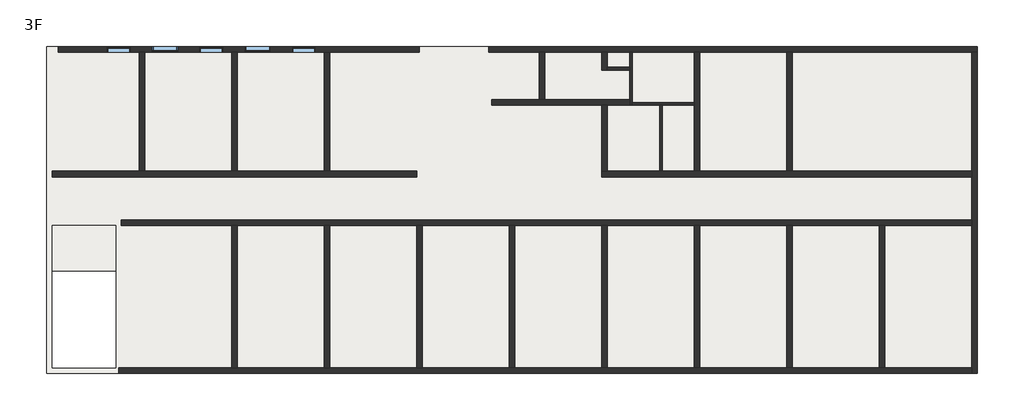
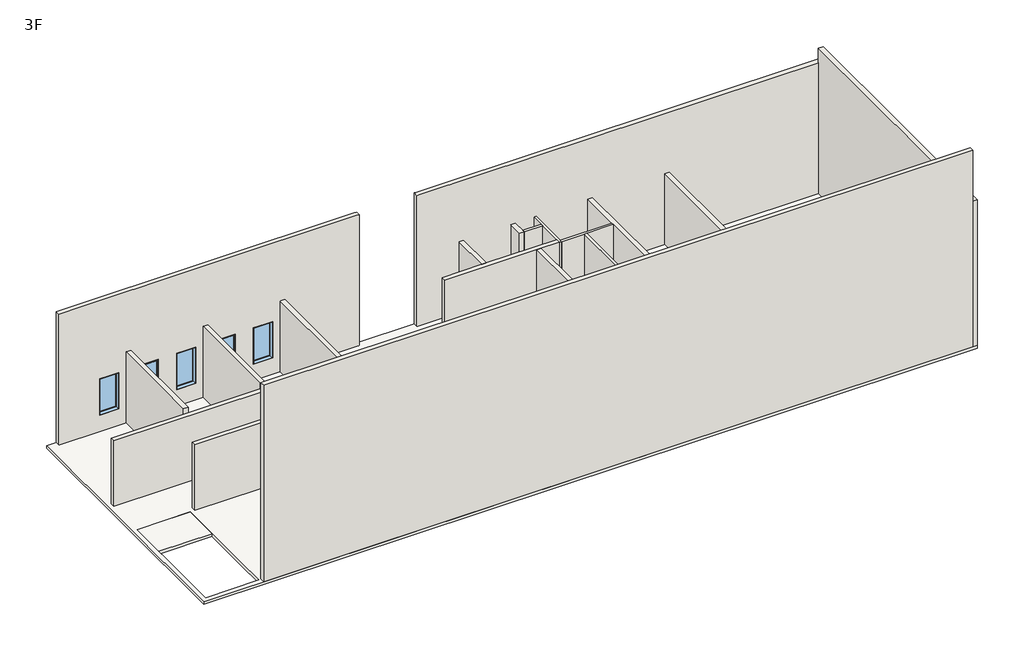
# One storey: 28 walls, 5 windows, 2 slabs.
"""IFC4 building model written with IfcOpenShell, lengths in millimetres."""

from ifc_helpers import new_model, si_unit, frame, origin, place, context, project, spatial, polyline, outline, extrude, faceted_brep, transform, mapped, element, save
from components import c1020_fcb93966, c1120_e84b940f

model = new_model("IFC4")

# Units and contexts
model_context = context("Model", 3, world=origin())
ifc_project = project(units=[si_unit("LENGTHUNIT", "METRE", prefix="MILLI")], contexts=[model_context])

# Site, building, storey
site = spatial("IfcSite", under=ifc_project)
building = spatial("IfcBuilding", under=site)
storey = spatial("IfcBuildingStorey", under=building, Name="3F", Elevation=8100.0)

# Slabs
placement = place(None, origin())
element("IfcSlab", 1, ObjectType="常规 - 150mm", at=placement, inside=storey, context=model_context, shape_type="Brep", body=[
    faceted_brep([(31359.5620884, 8888.8697102, 7950.0), (31359.5620884, -5251.1302898, 7950.0), (-8880.4379116, -5251.1302898, 7950.0), (-8880.4379116, 8888.8697102, 7950.0), (-5880.4379116, 1148.8697102, 7950.0), (-8640.4379116, 1148.8697102, 7950.0), (-8640.4379116, -3421.1302898, 7950.0), (-8640.4379116, -5011.1302898, 7950.0), (-5880.4379116, -5011.1302898, 7950.0), (-5880.4379116, -3421.1302898, 7950.0), (31359.5620884, -5251.1302898, 8100.0), (31359.5620884, 8888.8697102, 8100.0), (-8880.4379116, 8888.8697102, 8100.0), (-8880.4379116, -5251.1302898, 8100.0), (-8640.4379116, 1148.8697102, 8100.0), (-5880.4379116, 1148.8697102, 8100.0), (-5880.4379116, -3421.1302898, 8100.0), (-5880.4379116, -5011.1302898, 8100.0), (-8640.4379116, -5011.1302898, 8100.0), (-8640.4379116, -3421.1302898, 8100.0)], [[[0, 1, 2, 3], [4, 5, 6, 7, 8, 9]], [[10, 11, 12, 13], [14, 15, 16, 17, 18, 19]], [[1, 0, 11, 10]], [[2, 1, 10, 13]], [[3, 2, 13, 12]], [[0, 3, 12, 11]], [[4, 15, 14, 5]], [[5, 14, 19, 18, 7, 6]], [[7, 18, 17, 8]], [[15, 4, 9, 8, 17, 16]]]),
])
element("IfcSlab", 2, ObjectType="常规 - 150mm", at=placement, inside=storey, context=model_context, shape_type="SweptSolid", body=[
    extrude(outline(polyline([(-8640.4379116, -821.1302898), (-8640.4379116, 1148.8697102), (-5880.4379116, 1148.8697102), (-5880.4379116, -821.1302898), (-8640.4379116, -821.1302898)])), frame((0.0, 0.0, 7950.0), z_axis=(0.0, 0.0, 1.0), x_axis=(1.0, 0.0, 0.0)), (0.0, 0.0, 1.0), 150.0),
])

# Walls
element("IfcWall", 3, ObjectType="常规 - 240mm", at=placement, inside=storey, context=model_context, shape_type="Brep", body=[
    faceted_brep([(-8380.4379116, 8648.8697102, 8100.0), (-4880.4379116, 8648.8697102, 8100.0), (-4640.4379116, 8648.8697102, 8100.0), (-880.4379116, 8648.8697102, 8100.0), (-640.4379116, 8648.8697102, 8100.0), (3119.5620884, 8648.8697102, 8100.0), (3359.5620884, 8648.8697102, 8100.0), (7119.5620884, 8648.8697102, 8100.0), (7239.5620884, 8648.8697102, 8100.0), (7239.5620884, 8648.8697102, 15300.0), (7119.5620884, 8648.8697102, 15300.0), (-8380.4379116, 8648.8697102, 15300.0), (-5260.4379116, 8648.8697102, 9000.0), (-6260.4379116, 8648.8697102, 9000.0), (-6260.4379116, 8648.8697102, 11000.0), (-5260.4379116, 8648.8697102, 11000.0), (-1260.4379116, 8648.8697102, 9000.0), (-2260.4379116, 8648.8697102, 9000.0), (-2260.4379116, 8648.8697102, 11000.0), (-1260.4379116, 8648.8697102, 11000.0), (2739.5620884, 8648.8697102, 9000.0), (1739.5620884, 8648.8697102, 9000.0), (1739.5620884, 8648.8697102, 11000.0), (2739.5620884, 8648.8697102, 11000.0), (-4310.4379116, 8648.8697102, 9000.0), (-4310.4379116, 8648.8697102, 11000.0), (-3210.4379116, 8648.8697102, 11000.0), (-3210.4379116, 8648.8697102, 9000.0), (-310.4379116, 8648.8697102, 9000.0), (-310.4379116, 8648.8697102, 11000.0), (789.5620884, 8648.8697102, 11000.0), (789.5620884, 8648.8697102, 9000.0), (-8380.4379116, 8888.8697102, 8100.0), (-8380.4379116, 8888.8697102, 15300.0), (7119.5620884, 8888.8697102, 15300.0), (7239.5620884, 8888.8697102, 15300.0), (7239.5620884, 8888.8697102, 8100.0), (7119.5620884, 8888.8697102, 8100.0), (-5260.4379116, 8888.8697102, 9000.0), (-5260.4379116, 8888.8697102, 11000.0), (-6260.4379116, 8888.8697102, 11000.0), (-6260.4379116, 8888.8697102, 9000.0), (-1260.4379116, 8888.8697102, 9000.0), (-1260.4379116, 8888.8697102, 11000.0), (-2260.4379116, 8888.8697102, 11000.0), (-2260.4379116, 8888.8697102, 9000.0), (2739.5620884, 8888.8697102, 9000.0), (2739.5620884, 8888.8697102, 11000.0), (1739.5620884, 8888.8697102, 11000.0), (1739.5620884, 8888.8697102, 9000.0), (-4310.4379116, 8888.8697102, 9000.0), (-3210.4379116, 8888.8697102, 9000.0), (-3210.4379116, 8888.8697102, 11000.0), (-4310.4379116, 8888.8697102, 11000.0), (-310.4379116, 8888.8697102, 9000.0), (789.5620884, 8888.8697102, 9000.0), (789.5620884, 8888.8697102, 11000.0), (-310.4379116, 8888.8697102, 11000.0)], [[[0, 1, 2, 3, 4, 5, 6, 7, 8, 9, 10, 11], [12, 13, 14, 15], [16, 17, 18, 19], [20, 21, 22, 23], [24, 25, 26, 27], [28, 29, 30, 31]], [[32, 33, 34, 35, 36, 37], [38, 39, 40, 41], [42, 43, 44, 45], [46, 47, 48, 49], [50, 51, 52, 53], [54, 55, 56, 57]], [[8, 7, 6, 5, 4, 3, 2, 1, 0, 32, 37, 36]], [[9, 8, 36, 35]], [[11, 10, 9, 35, 34, 33]], [[0, 11, 33, 32]], [[39, 38, 12, 15]], [[40, 39, 15, 14]], [[41, 40, 14, 13]], [[38, 41, 13, 12]], [[43, 42, 16, 19]], [[44, 43, 19, 18]], [[45, 44, 18, 17]], [[42, 45, 17, 16]], [[47, 46, 20, 23]], [[48, 47, 23, 22]], [[49, 48, 22, 21]], [[46, 49, 21, 20]], [[25, 24, 50, 53]], [[26, 25, 53, 52]], [[27, 26, 52, 51]], [[24, 27, 51, 50]], [[29, 28, 54, 57]], [[30, 29, 57, 56]], [[31, 30, 56, 55]], [[28, 31, 55, 54]]]),
])
element("IfcWall", 4, ObjectType="常规 - 240mm", at=placement, inside=storey, context=model_context, shape_type="Brep", body=[
    faceted_brep([(10239.5620884, 8648.8697102, 8100.0), (12419.5620884, 8648.8697102, 8100.0), (12659.5620884, 8648.8697102, 8100.0), (15119.5620884, 8648.8697102, 8100.0), (15359.5620884, 8648.8697102, 8100.0), (16319.5620884, 8648.8697102, 8100.0), (16439.5620884, 8648.8697102, 8100.0), (19119.5620884, 8648.8697102, 8100.0), (19359.5620884, 8648.8697102, 8100.0), (23119.5620884, 8648.8697102, 8100.0), (23359.5620884, 8648.8697102, 8100.0), (31119.5620884, 8648.8697102, 8100.0), (31359.5620884, 8648.8697102, 8100.0), (31359.5620884, 8648.8697102, 15300.0), (10359.5620884, 8648.8697102, 15300.0), (10239.5620884, 8648.8697102, 15300.0), (10239.5620884, 8888.8697102, 8100.0), (10239.5620884, 8888.8697102, 15300.0), (10359.5620884, 8888.8697102, 15300.0), (31359.5620884, 8888.8697102, 15300.0), (31359.5620884, 8888.8697102, 8100.0), (16319.5620884, 8888.8697102, 8100.0)], [[[0, 1, 2, 3, 4, 5, 6, 7, 8, 9, 10, 11, 12, 13, 14, 15]], [[16, 17, 18, 19, 20, 21]], [[12, 11, 10, 9, 8, 7, 6, 5, 4, 3, 2, 1, 0, 16, 21, 20]], [[15, 14, 13, 19, 18, 17]], [[0, 15, 17, 16]], [[13, 12, 20, 19]]]),
])
element("IfcWall", 5, ObjectType="常规 - 240mm", at=placement, inside=storey, context=model_context, shape_type="Brep", body=[
    faceted_brep([(31119.5620884, 8648.8697102, 8100.0), (31119.5620884, 3488.8697102, 8100.0), (31119.5620884, 3248.8697102, 8100.0), (31119.5620884, 1388.8697102, 8100.0), (31119.5620884, 1148.8697102, 8100.0), (31119.5620884, -5011.1302898, 8100.0), (31119.5620884, -5251.1302898, 8100.0), (31119.5620884, -5251.1302898, 16100.0), (31119.5620884, 8648.8697102, 16100.0), (31359.5620884, 8648.8697102, 8100.0), (31359.5620884, 8648.8697102, 15300.0), (31359.5620884, 8648.8697102, 16100.0), (31359.5620884, -5251.1302898, 16100.0), (31359.5620884, -5251.1302898, 8100.0)], [[[0, 1, 2, 3, 4, 5, 6, 7, 8]], [[9, 10, 11, 12, 13]], [[6, 5, 4, 3, 2, 1, 0, 9, 13]], [[8, 7, 12, 11]], [[0, 8, 11, 10, 9]], [[7, 6, 13, 12]]]),
])
element("IfcWall", 6, ObjectType="常规 - 240mm", at=placement, inside=storey, context=model_context, shape_type="Brep", body=[
    faceted_brep([(31119.5620884, -5011.1302898, 8100.0), (27359.5620884, -5011.1302898, 8100.0), (27119.5620884, -5011.1302898, 8100.0), (23359.5620884, -5011.1302898, 8100.0), (23119.5620884, -5011.1302898, 8100.0), (19359.5620884, -5011.1302898, 8100.0), (19119.5620884, -5011.1302898, 8100.0), (15359.5620884, -5011.1302898, 8100.0), (15119.5620884, -5011.1302898, 8100.0), (11359.5620884, -5011.1302898, 8100.0), (11119.5620884, -5011.1302898, 8100.0), (7359.5620884, -5011.1302898, 8100.0), (7119.5620884, -5011.1302898, 8100.0), (3359.5620884, -5011.1302898, 8100.0), (3119.5620884, -5011.1302898, 8100.0), (-640.4379116, -5011.1302898, 8100.0), (-760.4379116, -5011.1302898, 8100.0), (-880.4379116, -5011.1302898, 8100.0), (-5760.4379116, -5011.1302898, 8100.0), (-5760.4379116, -5011.1302898, 18900.0), (-5640.4379116, -5011.1302898, 18900.0), (31119.5620884, -5011.1302898, 18900.0), (31119.5620884, -5251.1302898, 8100.0), (31119.5620884, -5251.1302898, 16100.0), (31119.5620884, -5251.1302898, 18900.0), (-5760.4379116, -5251.1302898, 18900.0), (-5760.4379116, -5251.1302898, 8100.0), (-760.4379116, -5251.1302898, 8100.0)], [[[0, 1, 2, 3, 4, 5, 6, 7, 8, 9, 10, 11, 12, 13, 14, 15, 16, 17, 18, 19, 20, 21]], [[22, 23, 24, 25, 26, 27]], [[18, 17, 16, 15, 14, 13, 12, 11, 10, 9, 8, 7, 6, 5, 4, 3, 2, 1, 0, 22, 27, 26]], [[19, 18, 26, 25]], [[21, 20, 19, 25, 24]], [[0, 21, 24, 23, 22]]]),
])
element("IfcWall", 7, ObjectType="常规 - 240mm 2", at=placement, inside=storey, context=model_context, shape_type="Brep", body=[
    faceted_brep([(7119.5620884, 3488.8697102, 8100.0), (3359.5620884, 3488.8697102, 8100.0), (3119.5620884, 3488.8697102, 8100.0), (-640.4379116, 3488.8697102, 8100.0), (-880.4379116, 3488.8697102, 8100.0), (-4640.4379116, 3488.8697102, 8100.0), (-4880.4379116, 3488.8697102, 8100.0), (-8640.4379116, 3488.8697102, 8100.0), (-8640.4379116, 3488.8697102, 11700.0), (7119.5620884, 3488.8697102, 11700.0), (7119.5620884, 3248.8697102, 8100.0), (7119.5620884, 3248.8697102, 11700.0), (-8640.4379116, 3248.8697102, 11700.0), (-8640.4379116, 3248.8697102, 8100.0), (7119.5620884, 3368.8697102, 8100.0)], [[[0, 1, 2, 3, 4, 5, 6, 7, 8, 9]], [[10, 11, 12, 13]], [[7, 6, 5, 4, 3, 2, 1, 0, 14, 10, 13]], [[9, 8, 12, 11]], [[8, 7, 13, 12]], [[0, 9, 11, 10, 14]]]),
])
element("IfcWall", 8, ObjectType="常规 - 240mm 2", at=placement, inside=storey, context=model_context, shape_type="Brep", body=[
    faceted_brep([(-5640.4379116, 1148.8697102, 8100.0), (-880.4379116, 1148.8697102, 8100.0), (-640.4379116, 1148.8697102, 8100.0), (3119.5620884, 1148.8697102, 8100.0), (3359.5620884, 1148.8697102, 8100.0), (7119.5620884, 1148.8697102, 8100.0), (7359.5620884, 1148.8697102, 8100.0), (11119.5620884, 1148.8697102, 8100.0), (11359.5620884, 1148.8697102, 8100.0), (15119.5620884, 1148.8697102, 8100.0), (15359.5620884, 1148.8697102, 8100.0), (19119.5620884, 1148.8697102, 8100.0), (19359.5620884, 1148.8697102, 8100.0), (23119.5620884, 1148.8697102, 8100.0), (23359.5620884, 1148.8697102, 8100.0), (27119.5620884, 1148.8697102, 8100.0), (27359.5620884, 1148.8697102, 8100.0), (31119.5620884, 1148.8697102, 8100.0), (31119.5620884, 1148.8697102, 11700.0), (-5640.4379116, 1148.8697102, 11700.0), (-5640.4379116, 1388.8697102, 8100.0), (-5640.4379116, 1388.8697102, 11700.0), (31119.5620884, 1388.8697102, 11700.0), (31119.5620884, 1388.8697102, 8100.0)], [[[0, 1, 2, 3, 4, 5, 6, 7, 8, 9, 10, 11, 12, 13, 14, 15, 16, 17, 18, 19]], [[20, 21, 22, 23]], [[17, 16, 15, 14, 13, 12, 11, 10, 9, 8, 7, 6, 5, 4, 3, 2, 1, 0, 20, 23]], [[19, 18, 22, 21]], [[18, 17, 23, 22]], [[0, 19, 21, 20]]]),
])
element("IfcWall", 9, ObjectType="常规 - 240mm 2", at=placement, inside=storey, context=model_context, shape_type="Brep", body=[
    faceted_brep([(15119.5620884, 3248.8697102, 8100.0), (31119.5620884, 3248.8697102, 8100.0), (31119.5620884, 3248.8697102, 12000.0), (15119.5620884, 3248.8697102, 12000.0), (15119.5620884, 3488.8697102, 8100.0), (15119.5620884, 3488.8697102, 12000.0), (15359.5620884, 3488.8697102, 12000.0), (17619.5620884, 3488.8697102, 12000.0), (17739.5620884, 3488.8697102, 12000.0), (19119.5620884, 3488.8697102, 12000.0), (19359.5620884, 3488.8697102, 12000.0), (23119.5620884, 3488.8697102, 12000.0), (23359.5620884, 3488.8697102, 12000.0), (31119.5620884, 3488.8697102, 12000.0), (31119.5620884, 3488.8697102, 8100.0), (23359.5620884, 3488.8697102, 8100.0), (23119.5620884, 3488.8697102, 8100.0), (19359.5620884, 3488.8697102, 8100.0), (19119.5620884, 3488.8697102, 8100.0), (17739.5620884, 3488.8697102, 8100.0), (17619.5620884, 3488.8697102, 8100.0), (15359.5620884, 3488.8697102, 8100.0)], [[[0, 1, 2, 3]], [[4, 5, 6, 7, 8, 9, 10, 11, 12, 13, 14, 15, 16, 17, 18, 19, 20, 21]], [[1, 0, 4, 21, 20, 19, 18, 17, 16, 15, 14]], [[3, 2, 13, 12, 11, 10, 9, 8, 7, 6, 5]], [[2, 1, 14, 13]], [[0, 3, 5, 4]]]),
])
element("IfcWall", 10, ObjectType="常规 - 240mm 2", at=placement, inside=storey, context=model_context, shape_type="Brep", body=[
    faceted_brep([(10359.5620884, 6348.8697102, 8100.0), (15119.5620884, 6348.8697102, 8100.0), (15359.5620884, 6348.8697102, 8100.0), (16319.5620884, 6348.8697102, 8100.0), (16319.5620884, 6348.8697102, 12000.0), (15359.5620884, 6348.8697102, 12000.0), (15119.5620884, 6348.8697102, 12000.0), (10359.5620884, 6348.8697102, 12000.0), (10359.5620884, 6588.8697102, 8100.0), (10359.5620884, 6588.8697102, 12000.0), (12419.5620884, 6588.8697102, 12000.0), (12659.5620884, 6588.8697102, 12000.0), (16319.5620884, 6588.8697102, 12000.0), (16319.5620884, 6588.8697102, 8100.0), (12659.5620884, 6588.8697102, 8100.0), (12419.5620884, 6588.8697102, 8100.0)], [[[0, 1, 2, 3, 4, 5, 6, 7]], [[8, 9, 10, 11, 12, 13, 14, 15]], [[3, 2, 1, 0, 8, 15, 14, 13]], [[7, 6, 5, 4, 12, 11, 10, 9]], [[4, 3, 13, 12]], [[0, 7, 9, 8]]]),
])
element("IfcWall", 11, ObjectType="常规 - 240mm 2", at=placement, inside=storey, context=model_context, shape_type="SweptSolid", body=[
    extrude(outline(polyline([(12659.5620884, 8648.8697102), (12659.5620884, 6588.8697102), (12419.5620884, 6588.8697102), (12419.5620884, 8648.8697102), (12659.5620884, 8648.8697102)])), frame((0.0, 0.0, 8100.0), z_axis=(0.0, 0.0, 1.0), x_axis=(1.0, 0.0, 0.0)), (0.0, 0.0, 1.0), 3900.0),
])
element("IfcWall", 12, ObjectType="常规 - 240mm 2", at=placement, inside=storey, context=model_context, shape_type="SweptSolid", body=[
    extrude(outline(polyline([(15119.5620884, 3488.8697102), (15119.5620884, 6348.8697102), (15359.5620884, 6348.8697102), (15359.5620884, 3488.8697102), (15119.5620884, 3488.8697102)])), frame((0.0, 0.0, 8100.0), z_axis=(0.0, 0.0, 1.0), x_axis=(1.0, 0.0, 0.0)), (0.0, 0.0, 1.0), 3900.0),
])
element("IfcWall", 13, ObjectType="常规 - 240mm 2", at=placement, inside=storey, context=model_context, shape_type="SweptSolid", body=[
    extrude(outline(polyline([(19359.5620884, 1148.8697102), (19359.5620884, -5011.1302898), (19119.5620884, -5011.1302898), (19119.5620884, 1148.8697102), (19359.5620884, 1148.8697102)])), frame((0.0, 0.0, 8100.0), z_axis=(0.0, 0.0, 1.0), x_axis=(1.0, 0.0, 0.0)), (0.0, 0.0, 1.0), 3900.0),
])
element("IfcWall", 14, ObjectType="常规 - 240mm 2", at=placement, inside=storey, context=model_context, shape_type="SweptSolid", body=[
    extrude(outline(polyline([(15359.5620884, 1148.8697102), (15359.5620884, -5011.1302898), (15119.5620884, -5011.1302898), (15119.5620884, 1148.8697102), (15359.5620884, 1148.8697102)])), frame((0.0, 0.0, 8100.0), z_axis=(0.0, 0.0, 1.0), x_axis=(1.0, 0.0, 0.0)), (0.0, 0.0, 1.0), 3900.0),
])
element("IfcWall", 15, ObjectType="常规 - 240mm 2", at=placement, inside=storey, context=model_context, shape_type="SweptSolid", body=[
    extrude(outline(polyline([(23359.5620884, 1148.8697102), (23359.5620884, -5011.1302898), (23119.5620884, -5011.1302898), (23119.5620884, 1148.8697102), (23359.5620884, 1148.8697102)])), frame((0.0, 0.0, 8100.0), z_axis=(0.0, 0.0, 1.0), x_axis=(1.0, 0.0, 0.0)), (0.0, 0.0, 1.0), 3900.0),
])
element("IfcWall", 16, ObjectType="常规 - 240mm 2", at=placement, inside=storey, context=model_context, shape_type="SweptSolid", body=[
    extrude(outline(polyline([(27359.5620884, 1148.8697102), (27359.5620884, -5011.1302898), (27119.5620884, -5011.1302898), (27119.5620884, 1148.8697102), (27359.5620884, 1148.8697102)])), frame((0.0, 0.0, 8100.0), z_axis=(0.0, 0.0, 1.0), x_axis=(1.0, 0.0, 0.0)), (0.0, 0.0, 1.0), 3900.0),
])
element("IfcWall", 17, ObjectType="常规 - 240mm 2", at=placement, inside=storey, context=model_context, shape_type="Brep", body=[
    faceted_brep([(19359.5620884, 3488.8697102, 8100.0), (19359.5620884, 8648.8697102, 8100.0), (19359.5620884, 8648.8697102, 12000.0), (19359.5620884, 3488.8697102, 12000.0), (19119.5620884, 3488.8697102, 8100.0), (19119.5620884, 3488.8697102, 12000.0), (19119.5620884, 6348.8697102, 12000.0), (19119.5620884, 6468.8697102, 12000.0), (19119.5620884, 8648.8697102, 12000.0), (19119.5620884, 8648.8697102, 8100.0), (19119.5620884, 6468.8697102, 8100.0), (19119.5620884, 6348.8697102, 8100.0)], [[[0, 1, 2, 3]], [[4, 5, 6, 7, 8, 9, 10, 11]], [[1, 0, 4, 11, 10, 9]], [[3, 2, 8, 7, 6, 5]], [[2, 1, 9, 8]], [[0, 3, 5, 4]]]),
])
element("IfcWall", 18, ObjectType="常规 - 240mm 2", at=placement, inside=storey, context=model_context, shape_type="SweptSolid", body=[
    extrude(outline(polyline([(23359.5620884, 8648.8697102), (23359.5620884, 3488.8697102), (23119.5620884, 3488.8697102), (23119.5620884, 8648.8697102), (23359.5620884, 8648.8697102)])), frame((0.0, 0.0, 8100.0), z_axis=(0.0, 0.0, 1.0), x_axis=(1.0, 0.0, 0.0)), (0.0, 0.0, 1.0), 3900.0),
])
element("IfcWall", 19, ObjectType="常规 - 240mm 2", at=placement, inside=storey, context=model_context, shape_type="SweptSolid", body=[
    extrude(outline(polyline([(11359.5620884, 1148.8697102), (11359.5620884, -5011.1302898), (11119.5620884, -5011.1302898), (11119.5620884, 1148.8697102), (11359.5620884, 1148.8697102)])), frame((0.0, 0.0, 8100.0), z_axis=(0.0, 0.0, 1.0), x_axis=(1.0, 0.0, 0.0)), (0.0, 0.0, 1.0), 3900.0),
])
element("IfcWall", 20, ObjectType="常规 - 240mm 2", at=placement, inside=storey, context=model_context, shape_type="SweptSolid", body=[
    extrude(outline(polyline([(7359.5620884, 1148.8697102), (7359.5620884, -5011.1302898), (7119.5620884, -5011.1302898), (7119.5620884, 1148.8697102), (7359.5620884, 1148.8697102)])), frame((0.0, 0.0, 8100.0), z_axis=(0.0, 0.0, 1.0), x_axis=(1.0, 0.0, 0.0)), (0.0, 0.0, 1.0), 3900.0),
])
element("IfcWall", 21, ObjectType="常规 - 240mm 2", at=placement, inside=storey, context=model_context, shape_type="SweptSolid", body=[
    extrude(outline(polyline([(3359.5620884, 1148.8697102), (3359.5620884, -5011.1302898), (3119.5620884, -5011.1302898), (3119.5620884, 1148.8697102), (3359.5620884, 1148.8697102)])), frame((0.0, 0.0, 8100.0), z_axis=(0.0, 0.0, 1.0), x_axis=(1.0, 0.0, 0.0)), (0.0, 0.0, 1.0), 3900.0),
])
element("IfcWall", 22, ObjectType="常规 - 240mm 2", at=placement, inside=storey, context=model_context, shape_type="SweptSolid", body=[
    extrude(outline(polyline([(-640.4379116, 1148.8697102), (-640.4379116, -5011.1302898), (-880.4379116, -5011.1302898), (-880.4379116, 1148.8697102), (-640.4379116, 1148.8697102)])), frame((0.0, 0.0, 8100.0), z_axis=(0.0, 0.0, 1.0), x_axis=(1.0, 0.0, 0.0)), (0.0, 0.0, 1.0), 3900.0),
])
element("IfcWall", 23, ObjectType="常规 - 240mm 2", at=placement, inside=storey, context=model_context, shape_type="SweptSolid", body=[
    extrude(outline(polyline([(-640.4379116, 8648.8697102), (-640.4379116, 3488.8697102), (-880.4379116, 3488.8697102), (-880.4379116, 8648.8697102), (-640.4379116, 8648.8697102)])), frame((0.0, 0.0, 8100.0), z_axis=(0.0, 0.0, 1.0), x_axis=(1.0, 0.0, 0.0)), (0.0, 0.0, 1.0), 3900.0),
])
element("IfcWall", 24, ObjectType="常规 - 240mm 2", at=placement, inside=storey, context=model_context, shape_type="SweptSolid", body=[
    extrude(outline(polyline([(3359.5620884, 8648.8697102), (3359.5620884, 3488.8697102), (3119.5620884, 3488.8697102), (3119.5620884, 8648.8697102), (3359.5620884, 8648.8697102)])), frame((0.0, 0.0, 8100.0), z_axis=(0.0, 0.0, 1.0), x_axis=(1.0, 0.0, 0.0)), (0.0, 0.0, 1.0), 3900.0),
])
element("IfcWall", 25, ObjectType="常规 - 240mm 2", at=placement, inside=storey, context=model_context, shape_type="SweptSolid", body=[
    extrude(outline(polyline([(-4640.4379116, 8648.8697102), (-4640.4379116, 3488.8697102), (-4880.4379116, 3488.8697102), (-4880.4379116, 8648.8697102), (-4640.4379116, 8648.8697102)])), frame((0.0, 0.0, 8100.0), z_axis=(0.0, 0.0, 1.0), x_axis=(1.0, 0.0, 0.0)), (0.0, 0.0, 1.0), 3900.0),
])
element("IfcWall", 26, ObjectType="常规 - 240mm 2", at=placement, inside=storey, context=model_context, shape_type="Brep", body=[
    faceted_brep([(15119.5620884, 8648.8697102, 8100.0), (15119.5620884, 7868.8697102, 8100.0), (15119.5620884, 7868.8697102, 12000.0), (15119.5620884, 8648.8697102, 12000.0), (15359.5620884, 8648.8697102, 8100.0), (15359.5620884, 8648.8697102, 12000.0), (15359.5620884, 7988.8697102, 12000.0), (15359.5620884, 7868.8697102, 12000.0), (15359.5620884, 7868.8697102, 8100.0), (15359.5620884, 7988.8697102, 8100.0)], [[[0, 1, 2, 3]], [[4, 5, 6, 7, 8, 9]], [[1, 0, 4, 9, 8]], [[3, 2, 7, 6, 5]], [[0, 3, 5, 4]], [[2, 1, 8, 7]]]),
])
element("IfcWall", 27, ObjectType="常规 - 120mm", at=placement, inside=storey, context=model_context, shape_type="SweptSolid", body=[
    extrude(outline(polyline([(16319.5620884, 7868.8697102), (15359.5620884, 7868.8697102), (15359.5620884, 7988.8697102), (16319.5620884, 7988.8697102), (16319.5620884, 7868.8697102)])), frame((0.0, 0.0, 8100.0), z_axis=(0.0, 0.0, 1.0), x_axis=(1.0, 0.0, 0.0)), (0.0, 0.0, 1.0), 3900.0),
])
element("IfcWall", 28, ObjectType="常规 - 120mm", at=placement, inside=storey, context=model_context, shape_type="Brep", body=[
    faceted_brep([(16439.5620884, 6348.8697102, 8100.0), (16439.5620884, 6468.8697102, 8100.0), (16439.5620884, 8648.8697102, 8100.0), (16439.5620884, 8648.8697102, 12000.0), (16439.5620884, 6468.8697102, 12000.0), (16439.5620884, 6348.8697102, 12000.0), (16319.5620884, 6348.8697102, 8100.0), (16319.5620884, 6348.8697102, 12000.0), (16319.5620884, 6588.8697102, 12000.0), (16319.5620884, 7868.8697102, 12000.0), (16319.5620884, 7988.8697102, 12000.0), (16319.5620884, 8648.8697102, 12000.0), (16319.5620884, 8648.8697102, 8100.0), (16319.5620884, 7988.8697102, 8100.0), (16319.5620884, 7868.8697102, 8100.0), (16319.5620884, 6588.8697102, 8100.0)], [[[0, 1, 2, 3, 4, 5]], [[6, 7, 8, 9, 10, 11, 12, 13, 14, 15]], [[2, 1, 0, 6, 15, 14, 13, 12]], [[5, 4, 3, 11, 10, 9, 8, 7]], [[3, 2, 12, 11]], [[0, 5, 7, 6]]]),
])
element("IfcWall", 29, ObjectType="常规 - 120mm", at=placement, inside=storey, context=model_context, shape_type="Brep", body=[
    faceted_brep([(16439.5620884, 6348.8697102, 8100.0), (17619.5620884, 6348.8697102, 8100.0), (17739.5620884, 6348.8697102, 8100.0), (19119.5620884, 6348.8697102, 8100.0), (19119.5620884, 6348.8697102, 12000.0), (17739.5620884, 6348.8697102, 12000.0), (17619.5620884, 6348.8697102, 12000.0), (16439.5620884, 6348.8697102, 12000.0), (16439.5620884, 6468.8697102, 8100.0), (16439.5620884, 6468.8697102, 12000.0), (19119.5620884, 6468.8697102, 12000.0), (19119.5620884, 6468.8697102, 8100.0)], [[[0, 1, 2, 3, 4, 5, 6, 7]], [[8, 9, 10, 11]], [[3, 2, 1, 0, 8, 11]], [[7, 6, 5, 4, 10, 9]], [[0, 7, 9, 8]], [[4, 3, 11, 10]]]),
])
element("IfcWall", 30, ObjectType="常规 - 120mm", at=placement, inside=storey, context=model_context, shape_type="SweptSolid", body=[
    extrude(outline(polyline([(17739.5620884, 6348.8697102), (17739.5620884, 3488.8697102), (17619.5620884, 3488.8697102), (17619.5620884, 6348.8697102), (17739.5620884, 6348.8697102)])), frame((0.0, 0.0, 8100.0), z_axis=(0.0, 0.0, 1.0), x_axis=(1.0, 0.0, 0.0)), (0.0, 0.0, 1.0), 3900.0),
])

# Windows
c1020_shape = c1020_fcb93966(model_context)
element("IfcWindow", 31, ObjectType="固定 : C1020", at=placement, inside=storey, context=model_context, shape_type="MappedRepresentation", body=[
    mapped(c1020_shape, transform((-5760.4379116, 8755.8697102, 8100.0), x_axis=(-1.0, 0.0, 0.0), y_axis=(0.0, -1.0, 0.0), z_axis=(0.0, 0.0, 1.0))),
])
element("IfcWindow", 32, ObjectType="固定 : C1020", at=placement, inside=storey, context=model_context, shape_type="MappedRepresentation", body=[
    mapped(c1020_shape, transform((-1760.4379116, 8755.8697102, 8100.0), x_axis=(-1.0, 0.0, 0.0), y_axis=(0.0, -1.0, 0.0), z_axis=(0.0, 0.0, 1.0))),
])
element("IfcWindow", 33, ObjectType="固定 : C1020", at=placement, inside=storey, context=model_context, shape_type="MappedRepresentation", body=[
    mapped(c1020_shape, transform((2239.5620884, 8755.8697102, 8100.0), x_axis=(-1.0, 0.0, 0.0), y_axis=(0.0, -1.0, 0.0), z_axis=(0.0, 0.0, 1.0))),
])
c1120_shape = c1120_e84b940f(model_context)
element("IfcWindow", 34, ObjectType="固定 : C1120", at=placement, inside=storey, context=model_context, shape_type="MappedRepresentation", body=[
    mapped(c1120_shape, transform((-3760.4379116, 8781.8697102, 8100.0), x_axis=(1.0, 0.0, 0.0), y_axis=(0.0, 1.0, 0.0), z_axis=(0.0, 0.0, 1.0))),
])
element("IfcWindow", 35, ObjectType="固定 : C1120", at=placement, inside=storey, context=model_context, shape_type="MappedRepresentation", body=[
    mapped(c1120_shape, transform((239.5620884, 8781.8697102, 8100.0), x_axis=(1.0, 0.0, 0.0), y_axis=(0.0, 1.0, 0.0), z_axis=(0.0, 0.0, 1.0))),
])

save(model, "model.ifc")
